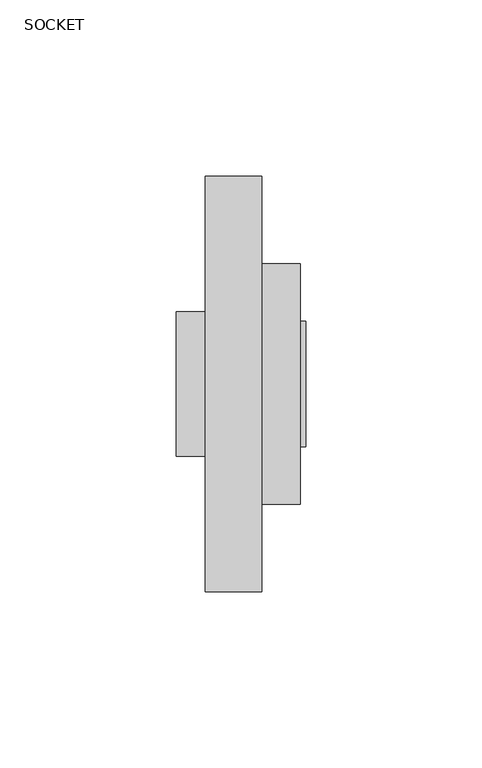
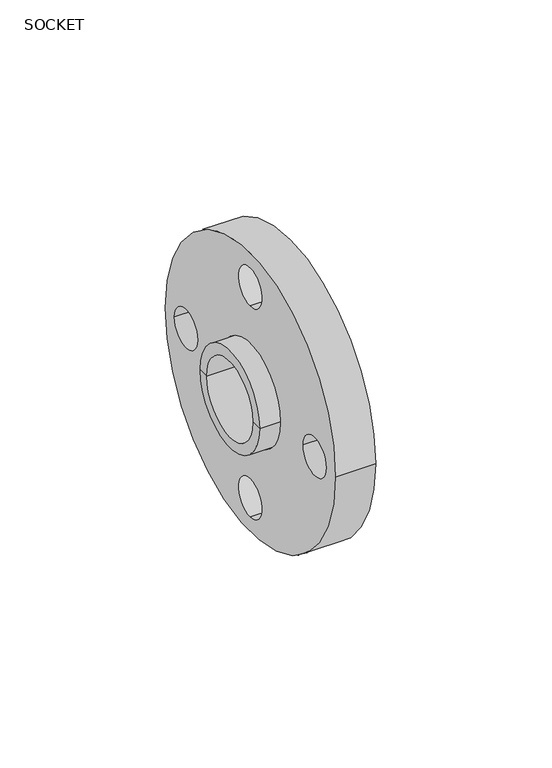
"""IFC4 building model written with IfcOpenShell, lengths in millimetres: valve geometry, Aquatherm - Flange Adapter Socket : SOCKET."""

from ifc_helpers import new_model, si_unit, point, frame, frame_2d, origin, origin_2d, place, context, project, spatial, polyline, circle_curve, trimmed, segment, composite_curve, outline, extrude, source, transform, mapped, element, save
from ifc_brep_helpers import plane_surface, cylinder_surface, revolved_surface, advanced_brep


def socket_30ee998c(model_context):
    return source(origin(), model_context, "Body", "SolidModel", [
        extrude(outline(composite_curve([segment(trimmed(circle_curve(origin_2d(), 58.801), [point((58.801, 0.0))], [point((-58.801, 0.0))], False, "CARTESIAN"), True, "CONTINUOUS"), segment(trimmed(circle_curve(origin_2d(), 58.801), [point((-58.801, 0.0))], [point((58.801, 0.0))], False, "CARTESIAN"), True, "CONTINUOUS")], self_intersect=False), holes=[composite_curve([segment(trimmed(circle_curve(origin_2d(), 20.701), [point((20.701, 0.0))], [point((-20.701, 0.0))], True, "CARTESIAN"), True, "CONTINUOUS"), segment(trimmed(circle_curve(origin_2d(), 20.701), [point((-20.701, 0.0))], [point((20.701, 0.0))], True, "CARTESIAN"), True, "CONTINUOUS")], self_intersect=False), composite_curve([segment(trimmed(circle_curve(frame_2d((-44.45, 0.0)), 8.001), [point((-36.449, 0.0))], [point((-52.451, 0.0))], True, "CARTESIAN"), True, "CONTINUOUS"), segment(trimmed(circle_curve(frame_2d((-44.45, 0.0)), 8.001), [point((-52.451, 0.0))], [point((-36.449, 0.0))], True, "CARTESIAN"), True, "CONTINUOUS")], self_intersect=False), composite_curve([segment(trimmed(circle_curve(frame_2d((0.0, -44.45)), 8.001), [point((0.0, -36.449))], [point((0.0, -52.451))], True, "CARTESIAN"), True, "CONTINUOUS"), segment(trimmed(circle_curve(frame_2d((0.0, -44.45)), 8.001), [point((0.0, -52.451))], [point((0.0, -36.449))], True, "CARTESIAN"), True, "CONTINUOUS")], self_intersect=False), composite_curve([segment(trimmed(circle_curve(frame_2d((0.0, 44.45)), 8.001), [point((0.0, 36.449))], [point((0.0, 52.451))], True, "CARTESIAN"), True, "CONTINUOUS"), segment(trimmed(circle_curve(frame_2d((0.0, 44.45)), 8.001), [point((0.0, 52.451))], [point((0.0, 36.449))], True, "CARTESIAN"), True, "CONTINUOUS")], self_intersect=False), composite_curve([segment(trimmed(circle_curve(frame_2d((44.45, 0.0)), 8.001), [point((36.449, 0.0))], [point((52.451, 0.0))], True, "CARTESIAN"), True, "CONTINUOUS"), segment(trimmed(circle_curve(frame_2d((44.45, 0.0)), 8.001), [point((52.451, 0.0))], [point((36.449, 0.0))], True, "CARTESIAN"), True, "CONTINUOUS")], self_intersect=False)]), frame((-16.002, 0.0, 0.0), z_axis=(1.0, 0.0, 0.0), x_axis=(0.0, 1.0, 0.0)), (0.0, 0.0, 1.0), 16.002),
        advanced_brep(
        [(12.446, -12.7, 0.0), (12.446, -17.78, 0.0), (12.446, 17.78, 0.0), (12.446, 12.7, 0.0), (-6.096, -12.7, 0.0), (-6.096, 12.7, 0.0), (-6.096, -16.002, 0.0), (-6.096, 16.002, 0.0), (-24.13, -16.002, 0.0), (-24.13, 16.002, 0.0), (-24.13, -20.447, 0.0), (-24.13, 20.447, 0.0), (0.0, -20.447, 0.0), (0.0, 20.447, 0.0), (0.0, -34.036, 0.0), (0.0, 34.036, 0.0), (10.922, -34.036, 0.0), (10.922, 34.036, 0.0), (10.922, -17.78, 0.0), (10.922, 17.78, 0.0)],
        [
            (0, 1),
            (1, 2, circle_curve(frame((12.446, 0.0, 0.0), z_axis=(1.0, 0.0, 0.0), x_axis=(0.0, 1.0, 0.0)), 17.78)),
            (2, 3),
            (3, 0, circle_curve(frame((12.446, 0.0, 0.0), z_axis=(-1.0, 0.0, 0.0), x_axis=(0.0, 1.0, 0.0)), 12.7)),
            (2, 1, circle_curve(frame((12.446, 0.0, 0.0), z_axis=(1.0, 0.0, 0.0), x_axis=(0.0, 1.0, 0.0)), 17.78)),
            (0, 3, circle_curve(frame((12.446, 0.0, 0.0), z_axis=(-1.0, 0.0, 0.0), x_axis=(0.0, 1.0, 0.0)), 12.7)),
            (4, 0),
            (3, 5),
            (5, 4, circle_curve(frame((-6.096, 0.0, 0.0), z_axis=(-1.0, 0.0, 0.0), x_axis=(0.0, 1.0, 0.0)), 12.7)),
            (4, 5, circle_curve(frame((-6.096, 0.0, 0.0), z_axis=(-1.0, 0.0, 0.0), x_axis=(0.0, 1.0, 0.0)), 12.7)),
            (6, 4),
            (5, 7),
            (7, 6, circle_curve(frame((-6.096, 0.0, 0.0), z_axis=(-1.0, 0.0, 0.0), x_axis=(0.0, 1.0, 0.0)), 16.002)),
            (6, 7, circle_curve(frame((-6.096, 0.0, 0.0), z_axis=(-1.0, 0.0, 0.0), x_axis=(0.0, 1.0, 0.0)), 16.002)),
            (8, 6),
            (7, 9),
            (9, 8, circle_curve(frame((-24.13, 0.0, 0.0), z_axis=(-1.0, 0.0, 0.0), x_axis=(0.0, 1.0, 0.0)), 16.002)),
            (8, 9, circle_curve(frame((-24.13, 0.0, 0.0), z_axis=(-1.0, 0.0, 0.0), x_axis=(0.0, 1.0, 0.0)), 16.002)),
            (10, 8),
            (9, 11),
            (11, 10, circle_curve(frame((-24.13, 0.0, 0.0), z_axis=(-1.0, 0.0, 0.0), x_axis=(0.0, 1.0, 0.0)), 20.447)),
            (10, 11, circle_curve(frame((-24.13, 0.0, 0.0), z_axis=(-1.0, 0.0, 0.0), x_axis=(0.0, 1.0, 0.0)), 20.447)),
            (12, 10),
            (11, 13),
            (13, 12, circle_curve(frame((0.0, 0.0, 0.0), z_axis=(-1.0, 0.0, 0.0), x_axis=(0.0, 1.0, 0.0)), 20.447)),
            (12, 13, circle_curve(frame((0.0, 0.0, 0.0), z_axis=(-1.0, 0.0, 0.0), x_axis=(0.0, 1.0, 0.0)), 20.447)),
            (14, 12),
            (13, 15),
            (15, 14, circle_curve(frame((0.0, 0.0, 0.0), z_axis=(-1.0, 0.0, 0.0), x_axis=(0.0, 1.0, 0.0)), 34.036)),
            (14, 15, circle_curve(frame((0.0, 0.0, 0.0), z_axis=(-1.0, 0.0, 0.0), x_axis=(0.0, 1.0, 0.0)), 34.036)),
            (16, 14),
            (15, 17),
            (17, 16, circle_curve(frame((10.922, 0.0, 0.0), z_axis=(-1.0, 0.0, 0.0), x_axis=(0.0, 1.0, 0.0)), 34.036)),
            (16, 17, circle_curve(frame((10.922, 0.0, 0.0), z_axis=(-1.0, 0.0, 0.0), x_axis=(0.0, 1.0, 0.0)), 34.036)),
            (18, 16),
            (17, 19),
            (19, 18, circle_curve(frame((10.922, 0.0, 0.0), z_axis=(-1.0, 0.0, 0.0), x_axis=(0.0, 1.0, 0.0)), 17.78)),
            (18, 19, circle_curve(frame((10.922, 0.0, 0.0), z_axis=(-1.0, 0.0, 0.0), x_axis=(0.0, 1.0, 0.0)), 17.78)),
            (1, 18),
            (19, 2),
        ],
        [
            plane_surface(frame((12.446, 0.0, 0.0), z_axis=(1.0, 0.0, 0.0), x_axis=(0.0, 1.0, 0.0))),
            revolved_surface(polyline([(12.445999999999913, 12.7, 0.0), (-6.096000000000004, 12.7, 0.0)]), (1441.7411939, 0.0, 0.0), (1.0, 0.0, 0.0)),
            plane_surface(frame((-6.096, 0.0, 0.0), z_axis=(-1.0, 0.0, 0.0), x_axis=(0.0, 1.0, 0.0))),
            revolved_surface(polyline([(-6.096000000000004, 16.002, 0.0), (-24.13000000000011, 16.002, 0.0)]), (1441.7411939, 0.0, 0.0), (1.0, 0.0, 0.0)),
            plane_surface(frame((-24.13, 0.0, 0.0), z_axis=(-1.0, 0.0, 0.0), x_axis=(0.0, 1.0, 0.0))),
            cylinder_surface(frame((1441.7411939, 0.0, 0.0), z_axis=(1.0, 0.0, 0.0), x_axis=(0.0, 1.0, 0.0)), 20.447),
            plane_surface(frame((0.0, 0.0, 0.0), z_axis=(-1.0, 0.0, 0.0), x_axis=(0.0, 1.0, 0.0))),
            cylinder_surface(frame((1441.7411939, 0.0, 0.0), z_axis=(1.0, 0.0, 0.0), x_axis=(0.0, 1.0, 0.0)), 34.036),
            plane_surface(frame((10.922, 0.0, 0.0), z_axis=(1.0, 0.0, 0.0), x_axis=(0.0, 1.0, 0.0))),
            cylinder_surface(frame((1441.7411939, 0.0, 0.0), z_axis=(1.0, 0.0, 0.0), x_axis=(0.0, 1.0, 0.0)), 17.78),
        ],
        [
            (0, [[1, 2, 3, 4]]),
            (0, [[-3, 5, -1, 6]]),
            (1, [[7, -4, 8, 9]]),
            (1, [[-8, -6, -7, 10]]),
            (2, [[11, -9, 12, 13]]),
            (2, [[-12, -10, -11, 14]]),
            (3, [[15, -13, 16, 17]]),
            (3, [[-16, -14, -15, 18]]),
            (4, [[19, -17, 20, 21]]),
            (4, [[-20, -18, -19, 22]]),
            (5, [[23, -21, 24, 25]]),
            (5, [[-24, -22, -23, 26]]),
            (6, [[27, -25, 28, 29]]),
            (6, [[-28, -26, -27, 30]]),
            (7, [[31, -29, 32, 33]]),
            (7, [[-32, -30, -31, 34]]),
            (8, [[35, -33, 36, 37]]),
            (8, [[-36, -34, -35, 38]]),
            (9, [[39, -37, 40, -2]]),
            (9, [[-40, -38, -39, -5]]),
        ],
    ),
    ])


if __name__ == "__main__":
    model = new_model("IFC4")
    model_context = context("Model", 3, world=origin())
    ifc_project = project(units=[si_unit("LENGTHUNIT", "METRE", prefix="MILLI")], contexts=[model_context])
    site = spatial("IfcSite", under=ifc_project)
    building = spatial("IfcBuilding", under=site)
    placement = place(None, origin())
    ifc_socket_shape = socket_30ee998c(model_context)
    element("IfcValve", 1, ObjectType="Aquatherm - Flange Adapter Socket : SOCKET", at=placement, inside=building, context=model_context, shape_type="MappedRepresentation", body=[
        mapped(ifc_socket_shape, transform((0.0, 0.0, 0.0), x_axis=(1.0, 0.0, 0.0), y_axis=(0.0, 1.0, 0.0), z_axis=(0.0, 0.0, 1.0))),
    ])
    save(model, "model.ifc")
